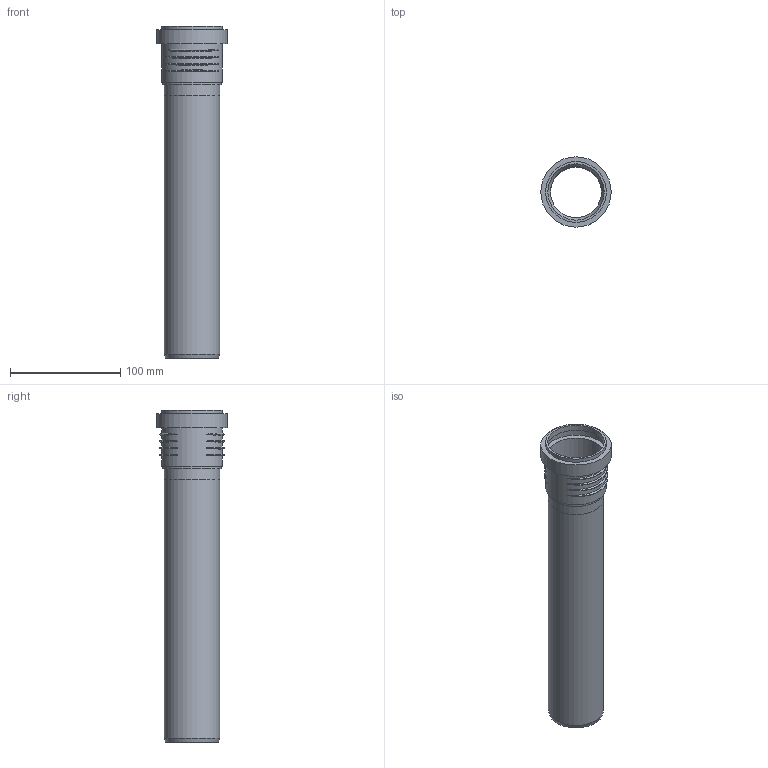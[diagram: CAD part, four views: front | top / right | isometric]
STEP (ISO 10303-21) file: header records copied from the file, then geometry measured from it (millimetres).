
FILE_DESCRIPTION(/* description */ (''),/* implementation_level */ '2;1');
FILE_NAME(/* name */ 'Z:\Geberit\Export\NewStep\390201.stp',/* time_stamp */ '2014-04-02T08:09:28+02:00',/* author */ ('ML'),/* organization */ (''),/* preprocessor_version */ 'ST-DEVELOPER v15.2',/* originating_system */ 'Autodesk Inventor 2014',/* authorisation */ '');
FILE_SCHEMA (('AUTOMOTIVE_DESIGN { 1 0 10303 214 3 1 1 }'));
Length unit declared in the file: millimetre
Products named in the file (3): 861697; 861698ohne; 390201
Bounding box: 63.7 x 63.7 x 300.8 mm (x, y, z)
Volume: 100566 mm3; surface area: 101863.2 mm2
Topology: 2 solids, 2 shells, 47 faces, 104 edges, 71 vertices
Faces by surface type: torus 24, cylinder 11, plane 10, cone 2
Full cylindrical faces by diameter (mm): 46.15 x2, 50.15 x2, 51 x2, 53 x1, 55 x2, 59.7 x1, 63.7 x1
Entity records: 1971 total; most frequent: CARTESIAN_POINT 930, DIRECTION 182, ORIENTED_EDGE 174, AXIS2_PLACEMENT_3D 91, EDGE_CURVE 87, EDGE_LOOP 78, VERTEX_POINT 71, STYLED_ITEM 49
